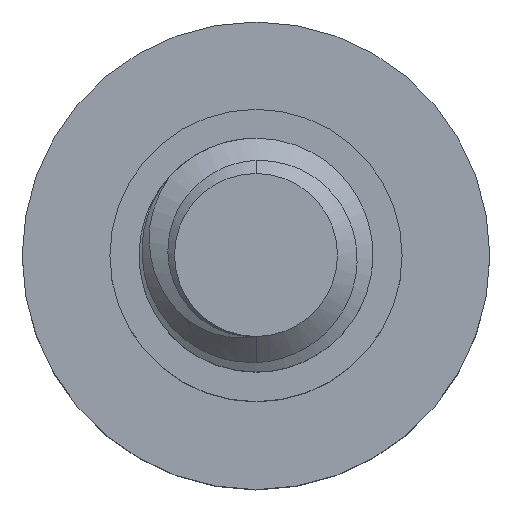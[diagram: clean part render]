
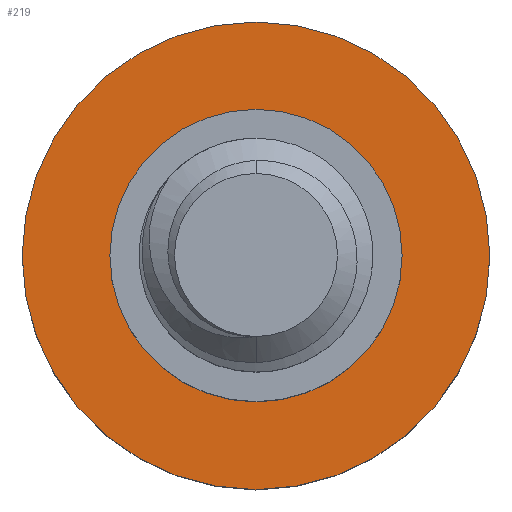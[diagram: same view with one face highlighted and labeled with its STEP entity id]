
A CAD part, top view. The second image highlights one B-rep face of the part: STEP entity #219.
In plain terms, the highlighted planar face has unit normal (0, 0, 1).
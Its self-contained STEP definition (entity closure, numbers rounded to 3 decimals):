
#15 = CARTESIAN_POINT ( 'NONE',  ( 2.5, 0., -3. ) ) ;
#71 = AXIS2_PLACEMENT_3D ( 'NONE', #1567, #728, #1716 ) ;
#129 = DIRECTION ( 'NONE',  ( -1., 0., 0. ) ) ;
#180 = AXIS2_PLACEMENT_3D ( 'NONE', #435, #953, #1791 ) ;
#219 = ADVANCED_FACE ( 'NONE', ( #1053, #1424 ), #1259, .F. ) ;
#292 = DIRECTION ( 'NONE',  ( -1., 0., 0. ) ) ;
#318 = EDGE_LOOP ( 'NONE', ( #356, #1618 ) ) ;
#356 = ORIENTED_EDGE ( 'NONE', *, *, #770, .F. ) ;
#382 = EDGE_CURVE ( 'NONE', #782, #1106, #1901, .T. ) ;
#388 = CARTESIAN_POINT ( 'NONE',  ( 4., 0., -3. ) ) ;
#429 = CIRCLE ( 'NONE', #71, 4. ) ;
#435 = CARTESIAN_POINT ( 'NONE',  ( 0., 0., -3. ) ) ;
#453 = CARTESIAN_POINT ( 'NONE',  ( -2.5, 0., -3. ) ) ;
#462 = ORIENTED_EDGE ( 'NONE', *, *, #492, .T. ) ;
#492 = EDGE_CURVE ( 'NONE', #1603, #1778, #777, .T. ) ;
#583 = DIRECTION ( 'NONE',  ( -1., 0., 0. ) ) ;
#618 = CARTESIAN_POINT ( 'NONE',  ( 0., 0., -3. ) ) ;
#728 = DIRECTION ( 'NONE',  ( 0., 0., -1. ) ) ;
#752 = CARTESIAN_POINT ( 'NONE',  ( -4., 0., -3. ) ) ;
#770 = EDGE_CURVE ( 'NONE', #1106, #782, #429, .T. ) ;
#777 = CIRCLE ( 'NONE', #180, 2.5 ) ;
#782 = VERTEX_POINT ( 'NONE', #752 ) ;
#851 = AXIS2_PLACEMENT_3D ( 'NONE', #618, #2096, #129 ) ;
#896 = DIRECTION ( 'NONE',  ( 0., 0., -1. ) ) ;
#953 = DIRECTION ( 'NONE',  ( 0., 0., -1. ) ) ;
#1043 = CARTESIAN_POINT ( 'NONE',  ( 0., 0., -3. ) ) ;
#1053 = FACE_BOUND ( 'NONE', #1773, .T. ) ;
#1085 = DIRECTION ( 'NONE',  ( 0., 0., -1. ) ) ;
#1106 = VERTEX_POINT ( 'NONE', #388 ) ;
#1242 = AXIS2_PLACEMENT_3D ( 'NONE', #2085, #896, #583 ) ;
#1259 = PLANE ( 'NONE',  #1242 ) ;
#1424 = FACE_OUTER_BOUND ( 'NONE', #318, .T. ) ;
#1567 = CARTESIAN_POINT ( 'NONE',  ( 0., 0., -3. ) ) ;
#1603 = VERTEX_POINT ( 'NONE', #453 ) ;
#1618 = ORIENTED_EDGE ( 'NONE', *, *, #382, .F. ) ;
#1716 = DIRECTION ( 'NONE',  ( -1., 0., 0. ) ) ;
#1773 = EDGE_LOOP ( 'NONE', ( #462, #2150 ) ) ;
#1778 = VERTEX_POINT ( 'NONE', #15 ) ;
#1791 = DIRECTION ( 'NONE',  ( -1., 0., 0. ) ) ;
#1829 = CIRCLE ( 'NONE', #2115, 2.5 ) ;
#1839 = EDGE_CURVE ( 'NONE', #1778, #1603, #1829, .T. ) ;
#1901 = CIRCLE ( 'NONE', #851, 4. ) ;
#2085 = CARTESIAN_POINT ( 'NONE',  ( 0., 0., -3. ) ) ;
#2096 = DIRECTION ( 'NONE',  ( 0., 0., -1. ) ) ;
#2115 = AXIS2_PLACEMENT_3D ( 'NONE', #1043, #1085, #292 ) ;
#2150 = ORIENTED_EDGE ( 'NONE', *, *, #1839, .T. ) ;
